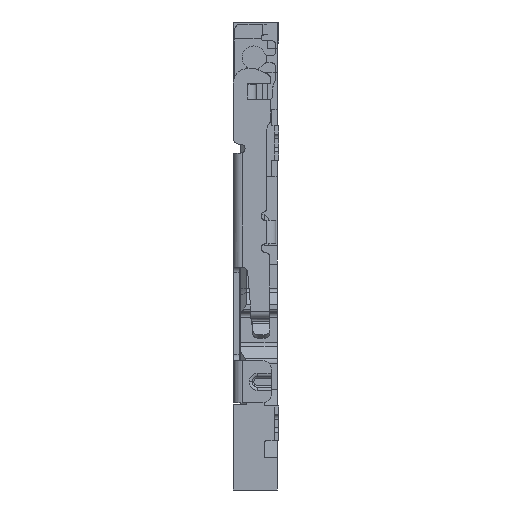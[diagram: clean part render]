
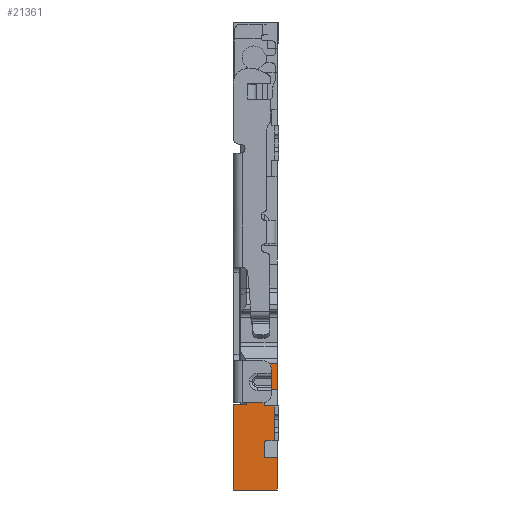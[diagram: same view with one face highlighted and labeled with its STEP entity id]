
A CAD part, left-side view. The second image highlights one B-rep face of the part: STEP entity #21361.
In plain terms, the highlighted planar face has unit normal (-1, 0, 0).
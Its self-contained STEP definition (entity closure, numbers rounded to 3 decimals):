
#62=DIRECTION('',(0.,0.,-1.));
#63=VECTOR('',#62,0.913);
#64=CARTESIAN_POINT('',(-19.907,-0.05,-8.558));
#65=LINE('',#64,#63);
#240=DIRECTION('',(0.,0.,-1.));
#241=VECTOR('',#240,1.128);
#242=CARTESIAN_POINT('',(-19.907,-0.05,-11.771));
#243=LINE('',#242,#241);
#680=DIRECTION('',(0.,-1.,0.));
#681=VECTOR('',#680,0.45);
#682=CARTESIAN_POINT('',(-19.907,0.4,-9.471));
#683=LINE('',#682,#681);
#684=CARTESIAN_POINT('',(-19.907,0.35,-9.971));
#685=DIRECTION('',(1.,0.,0.));
#686=DIRECTION('',(0.,0.,-1.));
#687=AXIS2_PLACEMENT_3D('',#684,#685,#686);
#689=DIRECTION('',(0.,1.,0.));
#690=VECTOR('',#689,0.3);
#691=CARTESIAN_POINT('',(-19.907,0.05,-10.021));
#692=LINE('',#691,#690);
#693=DIRECTION('',(0.,0.,1.));
#694=VECTOR('',#693,1.2);
#695=CARTESIAN_POINT('',(-19.907,0.05,-11.221));
#696=LINE('',#695,#694);
#697=CARTESIAN_POINT('',(-19.907,0.35,-11.271));
#698=DIRECTION('',(1.,0.,0.));
#699=DIRECTION('',(0.,1.,0.));
#700=AXIS2_PLACEMENT_3D('',#697,#698,#699);
#702=DIRECTION('',(0.,1.,0.));
#703=VECTOR('',#702,0.45);
#704=CARTESIAN_POINT('',(-19.907,-0.05,-11.771));
#705=LINE('',#704,#703);
#706=DIRECTION('',(0.,-1.,0.));
#707=VECTOR('',#706,1.5);
#708=CARTESIAN_POINT('',(-19.907,1.45,-12.899));
#709=LINE('',#708,#707);
#710=DIRECTION('',(0.,0.,-1.));
#711=VECTOR('',#710,2.928);
#712=CARTESIAN_POINT('',(-19.907,1.45,-9.971));
#713=LINE('',#712,#711);
#714=DIRECTION('',(0.,1.,0.));
#715=VECTOR('',#714,0.45);
#716=CARTESIAN_POINT('',(-19.907,1.,-9.971));
#717=LINE('',#716,#715);
#718=DIRECTION('',(0.,0.,-1.));
#719=VECTOR('',#718,1.413);
#720=CARTESIAN_POINT('',(-19.907,1.,-8.558));
#721=LINE('',#720,#719);
#726=DIRECTION('',(0.,-1.,0.));
#727=VECTOR('',#726,1.05);
#728=CARTESIAN_POINT('',(-19.907,1.,-8.558));
#729=LINE('',#728,#727);
#15810=DIRECTION('',(0.,0.,-1.));
#15811=VECTOR('',#15810,0.5);
#15812=CARTESIAN_POINT('',(-19.907,0.4,-11.271));
#15813=LINE('',#15812,#15811);
#15814=DIRECTION('',(0.,0.,-1.));
#15815=VECTOR('',#15814,0.5);
#15816=CARTESIAN_POINT('',(-19.907,0.4,-9.471));
#15817=LINE('',#15816,#15815);
#15830=DIRECTION('',(0.,1.,0.));
#15831=VECTOR('',#15830,0.3);
#15832=CARTESIAN_POINT('',(-19.907,0.05,-11.221));
#15833=LINE('',#15832,#15831);
#16526=CARTESIAN_POINT('',(-19.907,1.45,-9.971));
#16527=VERTEX_POINT('',#16526);
#16528=CARTESIAN_POINT('',(-19.907,1.45,-12.899));
#16529=VERTEX_POINT('',#16528);
#16539=CARTESIAN_POINT('',(-19.907,-0.05,-8.558));
#16541=VERTEX_POINT('',#16539);
#16542=CARTESIAN_POINT('',(-19.907,1.,-8.558));
#16543=VERTEX_POINT('',#16542);
#16549=CARTESIAN_POINT('',(-19.907,-0.05,-9.471));
#16550=VERTEX_POINT('',#16549);
#16551=CARTESIAN_POINT('',(-19.907,0.4,-9.471));
#16552=VERTEX_POINT('',#16551);
#16553=CARTESIAN_POINT('',(-19.907,0.4,-9.971));
#16554=VERTEX_POINT('',#16553);
#16555=CARTESIAN_POINT('',(-19.907,0.35,
-10.021));
#16556=VERTEX_POINT('',#16555);
#16557=CARTESIAN_POINT('',(-19.907,0.05,-10.021));
#16558=VERTEX_POINT('',#16557);
#16559=CARTESIAN_POINT('',(-19.907,0.05,-11.221));
#16560=VERTEX_POINT('',#16559);
#16561=CARTESIAN_POINT('',(-19.907,0.35,-11.221));
#16562=VERTEX_POINT('',#16561);
#16563=CARTESIAN_POINT('',(-19.907,0.4,-11.271));
#16564=VERTEX_POINT('',#16563);
#16565=CARTESIAN_POINT('',(-19.907,0.4,-11.771));
#16566=VERTEX_POINT('',#16565);
#16567=CARTESIAN_POINT('',(-19.907,-0.05,-11.771));
#16568=VERTEX_POINT('',#16567);
#16569=CARTESIAN_POINT('',(-19.907,-0.05,-12.899));
#16570=VERTEX_POINT('',#16569);
#16571=CARTESIAN_POINT('',(-19.907,1.,-9.971));
#16572=VERTEX_POINT('',#16571);
#21326=CARTESIAN_POINT('',(-19.907,0.28,2.479));
#21327=DIRECTION('',(-1.,0.,0.));
#21328=DIRECTION('',(0.,1.,0.));
#21329=AXIS2_PLACEMENT_3D('',#21326,#21327,#21328);
#21330=PLANE('',#21329);
#21332=ORIENTED_EDGE('',*,*,#21331,.T.);
#21333=ORIENTED_EDGE('',*,*,#20908,.T.);
#21335=ORIENTED_EDGE('',*,*,#21334,.F.);
#21337=ORIENTED_EDGE('',*,*,#21336,.T.);
#21339=ORIENTED_EDGE('',*,*,#21338,.F.);
#21341=ORIENTED_EDGE('',*,*,#21340,.F.);
#21343=ORIENTED_EDGE('',*,*,#21342,.F.);
#21345=ORIENTED_EDGE('',*,*,#21344,.T.);
#21347=ORIENTED_EDGE('',*,*,#21346,.F.);
#21349=ORIENTED_EDGE('',*,*,#21348,.T.);
#21351=ORIENTED_EDGE('',*,*,#21350,.F.);
#21352=ORIENTED_EDGE('',*,*,#21031,.T.);
#21353=ORIENTED_EDGE('',*,*,#20898,.F.);
#21354=ORIENTED_EDGE('',*,*,#20872,.F.);
#21356=ORIENTED_EDGE('',*,*,#21355,.F.);
#21358=ORIENTED_EDGE('',*,*,#21357,.F.);
#21359=EDGE_LOOP('',(#21332,#21333,#21335,#21337,#21339,#21341,#21343,#21345,
#21347,#21349,#21351,#21352,#21353,#21354,#21356,#21358));
#21360=FACE_OUTER_BOUND('',#21359,.F.);
#688=CIRCLE('',#687,0.05);
#701=CIRCLE('',#700,0.05);
#20872=EDGE_CURVE('',#16527,#16529,#713,.T.);
#20898=EDGE_CURVE('',#16529,#16570,#709,.T.);
#20908=EDGE_CURVE('',#16541,#16550,#65,.T.);
#21031=EDGE_CURVE('',#16568,#16570,#243,.T.);
#21331=EDGE_CURVE('',#16543,#16541,#729,.T.);
#21334=EDGE_CURVE('',#16552,#16550,#683,.T.);
#21336=EDGE_CURVE('',#16552,#16554,#15817,.T.);
#21338=EDGE_CURVE('',#16556,#16554,#688,.T.);
#21340=EDGE_CURVE('',#16558,#16556,#692,.T.);
#21342=EDGE_CURVE('',#16560,#16558,#696,.T.);
#21344=EDGE_CURVE('',#16560,#16562,#15833,.T.);
#21346=EDGE_CURVE('',#16564,#16562,#701,.T.);
#21348=EDGE_CURVE('',#16564,#16566,#15813,.T.);
#21350=EDGE_CURVE('',#16568,#16566,#705,.T.);
#21355=EDGE_CURVE('',#16572,#16527,#717,.T.);
#21357=EDGE_CURVE('',#16543,#16572,#721,.T.);
#21361=ADVANCED_FACE('',(#21360),#21330,.T.);
